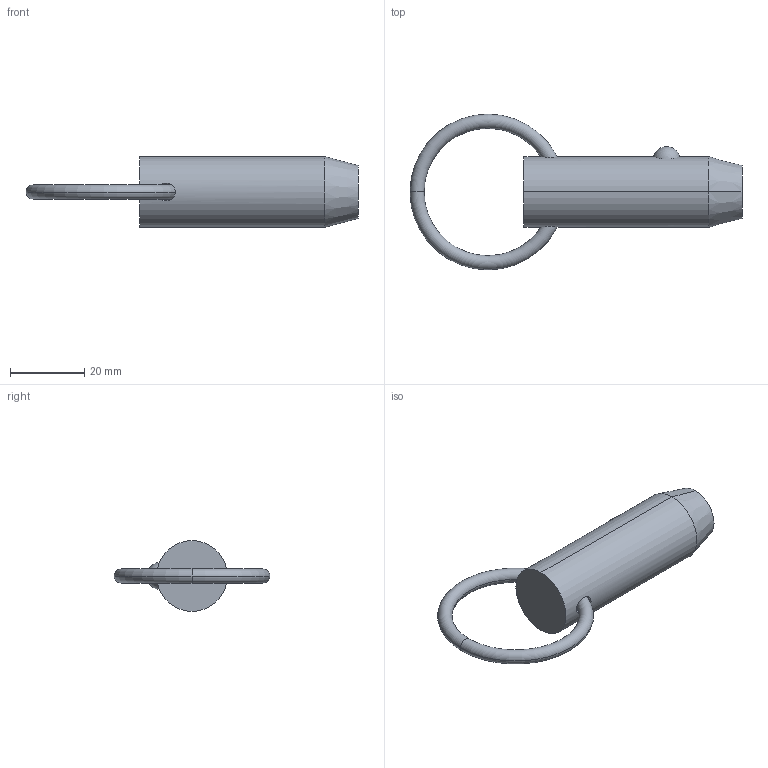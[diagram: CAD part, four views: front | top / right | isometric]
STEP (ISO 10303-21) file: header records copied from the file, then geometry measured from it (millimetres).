
FILE_DESCRIPTION (( 'STEP AP203' ), '1' );
FILE_NAME ('33010.W7510.step', '2024-11-01T10:43:17', ( '' ), ( '' ), 'SwSTEP 2.0', 'SolidWorks 2019', '' );
FILE_SCHEMA (( 'CONFIG_CONTROL_DESIGN' ));
Length unit declared in the file: millimetre
Products named in the file (3): Part2_33010.W7510; Part1_33010.W7510; 33010.W7510
Assembly tree (2 placements, depth 2):
  33010.W7510
    Part1_33010.W7510
    Part2_33010.W7510
Bounding box: 89.35 x 41.91 x 19.05 mm (x, y, z)
Volume: 17240.3 mm3; surface area: 5623.6 mm2
Topology: 2 solids, 2 shells, 16 faces, 31 edges, 18 vertices
Faces by surface type: torus 8, sphere 2, cone 2, cylinder 2, plane 2
Entity records: 893 total; most frequent: CARTESIAN_POINT 250, DIRECTION 88, ORIENTED_EDGE 62, AXIS2_PLACEMENT_3D 42, EDGE_CURVE 31, PERSON_AND_ORGANIZATION 26, CIRCLE 21, COORDINATED_UNIVERSAL_TIME_OFFSET 19
